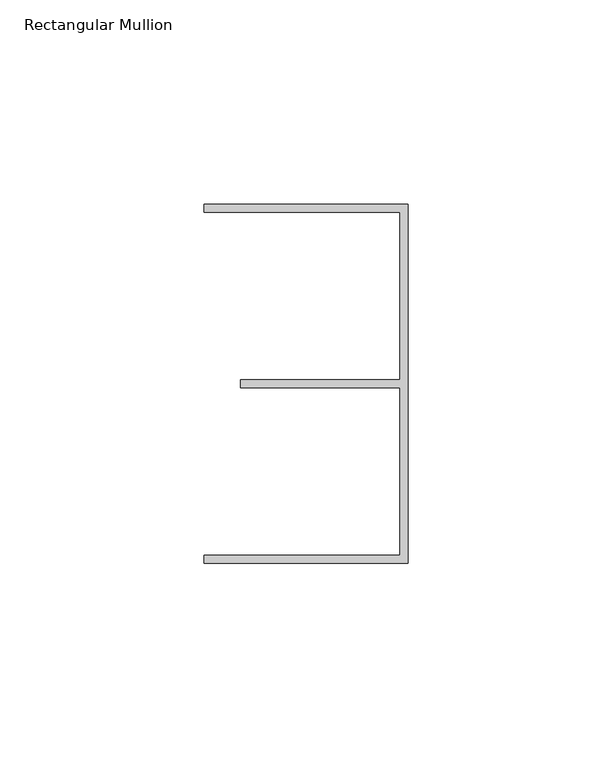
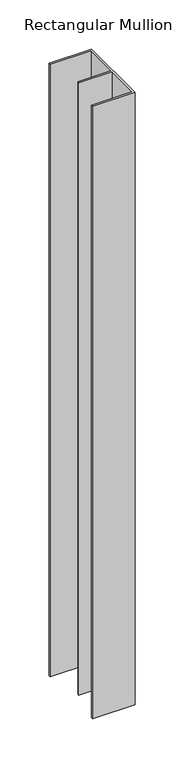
"""IFC4 building model written with IfcOpenShell, lengths in millimetres: member geometry, Rectangular Mullion : FLOOR_TRACK_CAP 94-KLS00-P80-SD41ALU."""

import ifcopenshell
import ifcopenshell.guid

model = None  # the IFC model being written
_history = None  # IfcOwnerHistory: only IFC2X3 demands one
_inside = {}  # id of a spatial element -> (the spatial element, [elements in it])
_under = {}  # id of a project, library or spatial element -> (it, [spatial elements below it])
_declared = {}  # id of a project -> (the project, [libraries it declares])
_typed = {}  # id of a type object -> (the type object, [elements of that type])
_made_of = {}  # id of a material, layer set ... -> (it, [elements and type objects made of it])


def new_model(schema):
    """Start an empty IFC model of exactly this schema.

    Asked for "IFC4X3", IfcOpenShell would pick the latest addendum, in which some entities
    have other attributes; the version numbers below select the first issue.
    IFC2X3 requires an IfcOwnerHistory on every rooted entity: one is made here for all.
    """
    global model, _history
    if schema == "IFC4X3":
        model = ifcopenshell.file(schema_version=(4, 3, 0, 0))
    else:
        model = ifcopenshell.file(schema=schema)
    _inside.clear()
    _under.clear()
    _declared.clear()
    _typed.clear()
    _made_of.clear()
    _history = None
    if model.schema == "IFC2X3":
        org = make("IfcOrganization", Name="unknown")
        user = make(
            "IfcPersonAndOrganization",
            ThePerson=make("IfcPerson", FamilyName="unknown"),
            TheOrganization=org,
        )
        app = make(
            "IfcApplication",
            ApplicationDeveloper=org,
            Version="unknown",
            ApplicationFullName="unknown",
            ApplicationIdentifier="unknown",
        )
        _history = make(
            "IfcOwnerHistory",
            OwningUser=user,
            OwningApplication=app,
            ChangeAction="ADDED",
            CreationDate=0,
        )
    return model


def make(cls, **values):
    """One entity of the class cls with the attributes given. An attribute that is None is left unset."""
    return model.create_entity(
        cls, **{name: value for name, value in values.items() if value is not None}
    )


def rooted(cls, **values):
    """An entity with a GlobalId (a new one), such as an element, a storey or a relation."""
    return make(cls, GlobalId=ifcopenshell.guid.new(), OwnerHistory=_history, **values)


def si_unit(unit_type, name, prefix=None):
    """IfcSIUnit, for example si_unit("LENGTHUNIT", "METRE", prefix="MILLI")."""
    return make("IfcSIUnit", UnitType=unit_type, Prefix=prefix, Name=name)


def assignment(units):
    """IfcUnitAssignment: the units of a project."""
    return None if units is None else make("IfcUnitAssignment", Units=units)


def point(xyz):
    """IfcCartesianPoint."""
    return None if xyz is None else make("IfcCartesianPoint", Coordinates=xyz)


def direction(xyz):
    """IfcDirection."""
    return None if xyz is None else make("IfcDirection", DirectionRatios=xyz)


def frame(location, z_axis=None, x_axis=None):
    """IfcAxis2Placement3D, a coordinate frame: its origin and axes. An axis left out is left unset."""
    return make(
        "IfcAxis2Placement3D",
        Location=point(location),
        Axis=direction(z_axis),
        RefDirection=direction(x_axis),
    )


def origin():
    """The frame at (0, 0, 0) with its axes left unset."""
    return frame((0.0, 0.0, 0.0))


def place(relative_to, where):
    """IfcLocalPlacement: puts the frame where relative to a parent placement (None: the world)."""
    return make(
        "IfcLocalPlacement", PlacementRelTo=relative_to, RelativePlacement=where
    )


def context(
    kind, dimensions, precision=None, world=None, true_north=None, identifier=None
):
    """IfcGeometricRepresentationContext, for example the 3D "Model" context."""
    return make(
        "IfcGeometricRepresentationContext",
        ContextIdentifier=identifier,
        ContextType=kind,
        CoordinateSpaceDimension=dimensions,
        Precision=precision,
        WorldCoordinateSystem=world,
        TrueNorth=true_north,
    )


def project(units=None, contexts=None):
    """IfcProject with its units and contexts."""
    return rooted(
        "IfcProject",
        Name="project",
        RepresentationContexts=contexts,
        UnitsInContext=assignment(units),
    )


def spatial(cls, under=None, at=None, **own):
    """A site, building, storey or space (cls), placed at a placement, below another one or the project."""
    s = rooted(cls, ObjectPlacement=at, **own)
    if under is not None:
        _under.setdefault(under.id(), (under, []))[1].append(s)
    return s


def polyline(points):
    """IfcPolyline through the points."""
    return make("IfcPolyline", Points=[point(p) for p in points])


def outline(outer, holes=None, kind="AREA"):
    """IfcArbitraryClosedProfileDef: a profile drawn as a closed curve; with holes, ...WithVoids."""
    if holes is None:
        return make("IfcArbitraryClosedProfileDef", ProfileType=kind, OuterCurve=outer)
    return make(
        "IfcArbitraryProfileDefWithVoids",
        ProfileType=kind,
        OuterCurve=outer,
        InnerCurves=holes,
    )


def extrude(swept, where, along, depth):
    """IfcExtrudedAreaSolid: the profile swept, set in the frame where, extruded along a direction by depth."""
    return make(
        "IfcExtrudedAreaSolid",
        SweptArea=swept,
        Position=where,
        ExtrudedDirection=direction(along),
        Depth=depth,
    )


def shape(context_of_items, identifier, shape_type, items):
    """IfcShapeRepresentation: the items that make up one representation, for example the "Body"."""
    return make(
        "IfcShapeRepresentation",
        ContextOfItems=context_of_items,
        RepresentationIdentifier=identifier,
        RepresentationType=shape_type,
        Items=items,
    )


def source(mapping_origin, context_of_items, identifier, shape_type, items):
    """IfcRepresentationMap: a shape defined once, which mapped items show again and again."""
    return make(
        "IfcRepresentationMap",
        MappingOrigin=mapping_origin,
        MappedRepresentation=shape(context_of_items, identifier, shape_type, items),
    )


def transform(
    local_origin,
    x_axis=None,
    y_axis=None,
    z_axis=None,
    scale=None,
    scale2=None,
    scale3=None,
    uniform=True,
):
    """IfcCartesianTransformationOperator3D, or its non-uniform kind. x_axis, y_axis, z_axis: its Axis1, 2, 3."""
    if uniform:
        return make(
            "IfcCartesianTransformationOperator3D",
            Axis1=direction(x_axis),
            Axis2=direction(y_axis),
            LocalOrigin=point(local_origin),
            Scale=scale,
            Axis3=direction(z_axis),
        )
    return make(
        "IfcCartesianTransformationOperator3DnonUniform",
        Axis1=direction(x_axis),
        Axis2=direction(y_axis),
        LocalOrigin=point(local_origin),
        Scale=scale,
        Axis3=direction(z_axis),
        Scale2=scale2,
        Scale3=scale3,
    )


def mapped(mapping_source, mapping_target):
    """IfcMappedItem: shows the shape of a source again, moved by a transform."""
    return make(
        "IfcMappedItem", MappingSource=mapping_source, MappingTarget=mapping_target
    )


def made_of(thing, what):
    """Note that an element or type object is made of a material, layer set ...; save() writes the relation."""
    if what is not None:
        _made_of.setdefault(what.id(), (what, []))[1].append(thing)
    return thing


def element(
    cls,
    number,
    at=None,
    inside=None,
    cuts=None,
    type_object=None,
    material=None,
    context=None,
    identifier="Body",
    shape_type=None,
    held_by="IfcProductDefinitionShape",
    body=None,
    shapes=None,
    **own,
):
    """One element of the class cls, such as IfcWall. Its Tag is "e" and its number.

    at: its placement. inside: the storey or other place that contains it. cuts: it is an
    opening in that element (IfcRelVoidsElement). A single representation is given by context,
    identifier, shape_type and body (its items); several are given by shapes. held_by: the class
    of the entity that holds the representations. save() writes the other relations.
    """
    e = rooted(cls, Tag="e%d" % number, ObjectPlacement=at, **own)
    if body is not None:
        shapes = [shape(context, identifier, shape_type, body)]
    if shapes is not None:
        e.Representation = make(held_by, Representations=shapes)
    if inside is not None:
        _inside.setdefault(inside.id(), (inside, []))[1].append(e)
    if cuts is not None:
        rooted(
            "IfcRelVoidsElement", RelatingBuildingElement=cuts, RelatedOpeningElement=e
        )
    if type_object is not None:
        _typed.setdefault(type_object.id(), (type_object, []))[1].append(e)
    return made_of(e, material)


def aggregate(whole, parts):
    """IfcRelAggregates: a whole, such as a stair, and the parts it consists of."""
    return rooted("IfcRelAggregates", RelatingObject=whole, RelatedObjects=parts)


def save(model, path):
    """Write the relations noted so far, then the file.

    IfcRelAggregates (storeys below a building ...), IfcRelContainedInSpatialStructure (elements
    in a storey), IfcRelDefinesByType, IfcRelAssociatesMaterial and IfcRelDeclares: one each for
    every whole, place, type object, material and project.
    """
    for whole, parts in _under.values():
        aggregate(whole, parts)
    for where, things in _inside.values():
        rooted(
            "IfcRelContainedInSpatialStructure",
            RelatedElements=things,
            RelatingStructure=where,
        )
    for kind, things in _typed.values():
        rooted("IfcRelDefinesByType", RelatedObjects=things, RelatingType=kind)
    for what, things in _made_of.values():
        rooted("IfcRelAssociatesMaterial", RelatedObjects=things, RelatingMaterial=what)
    for by, libraries in _declared.values():
        rooted("IfcRelDeclares", RelatingContext=by, RelatedDefinitions=libraries)
    model.write(path)


def rectangular_mullion_08eab6f5(model_context):
    return source(origin(), model_context, "Body", "SweptSolid", [
        extrude(outline(polyline([(0.0, -44.0), (-50.0, -44.0), (-50.0, -42.0), (-2.0, -42.0), (-2.0, -0.9316478), (-41.0, -0.9316478), (-41.0, 0.9316478), (-2.0, 0.9316478), (-2.0, 42.0), (-50.0, 42.0), (-50.0, 44.0), (0.0, 44.0), (0.0, -44.0)])), frame((0.0, 0.0, -759.6), z_axis=(0.0, 0.0, 1.0), x_axis=(1.0, 0.0, 0.0)), (0.0, 0.0, 1.0), 759.6),
    ])


if __name__ == "__main__":
    model = new_model("IFC4")
    model_context = context("Model", 3, world=origin())
    ifc_project = project(units=[si_unit("LENGTHUNIT", "METRE", prefix="MILLI")], contexts=[model_context])
    site = spatial("IfcSite", under=ifc_project)
    building = spatial("IfcBuilding", under=site)
    placement = place(None, origin())
    rectangular_mullion_shape = rectangular_mullion_08eab6f5(model_context)
    element("IfcMember", 1, ObjectType="Rectangular Mullion : FLOOR_TRACK_CAP 94-KLS00-P80-SD41ALU", at=placement, inside=building, context=model_context, shape_type="MappedRepresentation", body=[
        mapped(rectangular_mullion_shape, transform((0.0, 0.0, 0.0), x_axis=(1.0, 0.0, 0.0), y_axis=(0.0, 1.0, 0.0), z_axis=(0.0, 0.0, 1.0))),
    ])
    save(model, "model.ifc")
